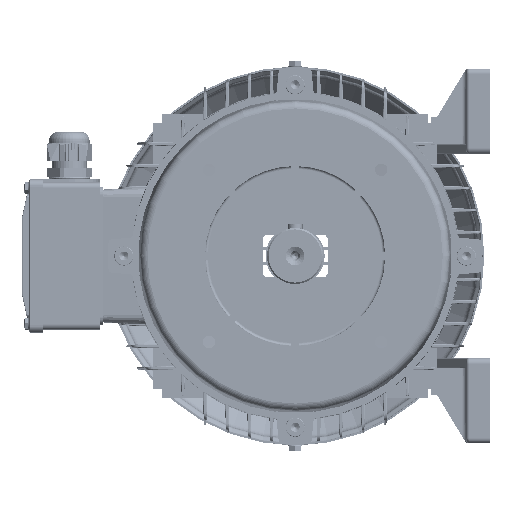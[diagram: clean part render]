
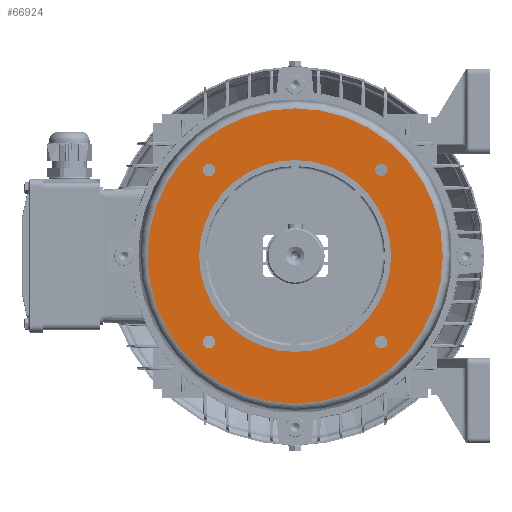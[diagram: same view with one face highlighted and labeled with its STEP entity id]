
A CAD part, left-side view. The second image highlights one B-rep face of the part: STEP entity #66924.
In plain terms, the highlighted planar face has unit normal (-1, 0, 0).
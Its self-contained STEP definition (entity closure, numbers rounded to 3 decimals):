
#2372 = CARTESIAN_POINT ( 'NONE',  ( -22., 0., 0. ) ) ;
#4667 = DIRECTION ( 'NONE',  ( 0., 0., -1. ) ) ;
#5043 = CARTESIAN_POINT ( 'NONE',  ( -22., -58.336, -62.586 ) ) ;
#5411 = CARTESIAN_POINT ( 'NONE',  ( -22., -58.336, 58.336 ) ) ;
#6856 = VERTEX_POINT ( 'NONE', #24336 ) ;
#6888 = EDGE_CURVE ( 'NONE', #49267, #6856, #115118, .T. ) ;
#7226 = CARTESIAN_POINT ( 'NONE',  ( -22., -58.336, 54.086 ) ) ;
#10871 = ORIENTED_EDGE ( 'NONE', *, *, #81173, .T. ) ;
#11828 = CARTESIAN_POINT ( 'NONE',  ( -22., 58.336, -58.336 ) ) ;
#14985 = DIRECTION ( 'NONE',  ( 0., 0., 1. ) ) ;
#15089 = CARTESIAN_POINT ( 'NONE',  ( -22., 58.336, 58.336 ) ) ;
#15662 = EDGE_LOOP ( 'NONE', ( #43127, #112220 ) ) ;
#16509 = EDGE_CURVE ( 'NONE', #70927, #138595, #152188, .T. ) ;
#17132 = CIRCLE ( 'NONE', #131615, 4.25 ) ;
#17256 = EDGE_CURVE ( 'NONE', #138595, #70927, #122545, .T. ) ;
#20910 = CARTESIAN_POINT ( 'NONE',  ( -22., -58.336, 58.336 ) ) ;
#21953 = DIRECTION ( 'NONE',  ( 0., 0., -1. ) ) ;
#22503 = FACE_BOUND ( 'NONE', #15662, .T. ) ;
#23696 = AXIS2_PLACEMENT_3D ( 'NONE', #5411, #67966, #93175 ) ;
#24336 = CARTESIAN_POINT ( 'NONE',  ( -22., 0., 65. ) ) ;
#24435 = AXIS2_PLACEMENT_3D ( 'NONE', #128639, #90740, #129198 ) ;
#24819 = CIRCLE ( 'NONE', #131632, 4.25 ) ;
#25473 = DIRECTION ( 'NONE',  ( 0., 0., -1. ) ) ;
#27788 = ORIENTED_EDGE ( 'NONE', *, *, #61826, .F. ) ;
#28314 = FACE_BOUND ( 'NONE', #103379, .T. ) ;
#28452 = DIRECTION ( 'NONE',  ( 0., 0., 1. ) ) ;
#29538 = CARTESIAN_POINT ( 'NONE',  ( -22., 0., 0. ) ) ;
#30212 = CIRCLE ( 'NONE', #103792, 4.25 ) ;
#30902 = AXIS2_PLACEMENT_3D ( 'NONE', #20910, #133991, #108681 ) ;
#33337 = DIRECTION ( 'NONE',  ( -1., 0., 0. ) ) ;
#35176 = ORIENTED_EDGE ( 'NONE', *, *, #157411, .T. ) ;
#42792 = EDGE_CURVE ( 'NONE', #50909, #109659, #71603, .T. ) ;
#43127 = ORIENTED_EDGE ( 'NONE', *, *, #47020, .T. ) ;
#43188 = CARTESIAN_POINT ( 'NONE',  ( -22., 0., 100. ) ) ;
#44141 = DIRECTION ( 'NONE',  ( 1., 0., 0. ) ) ;
#47020 = EDGE_CURVE ( 'NONE', #109659, #50909, #112030, .T. ) ;
#49267 = VERTEX_POINT ( 'NONE', #116695 ) ;
#49704 = EDGE_LOOP ( 'NONE', ( #70485, #35176 ) ) ;
#50432 = VERTEX_POINT ( 'NONE', #43188 ) ;
#50761 = ORIENTED_EDGE ( 'NONE', *, *, #54269, .T. ) ;
#50909 = VERTEX_POINT ( 'NONE', #73179 ) ;
#52975 = EDGE_LOOP ( 'NONE', ( #27788, #111517 ) ) ;
#54112 = AXIS2_PLACEMENT_3D ( 'NONE', #137062, #75029, #100285 ) ;
#54269 = EDGE_CURVE ( 'NONE', #109237, #101357, #30212, .T. ) ;
#55189 = CIRCLE ( 'NONE', #122947, 4.25 ) ;
#55932 = FACE_BOUND ( 'NONE', #137504, .T. ) ;
#59205 = CARTESIAN_POINT ( 'NONE',  ( -22., 0., 0. ) ) ;
#60140 = AXIS2_PLACEMENT_3D ( 'NONE', #119325, #44141, #131995 ) ;
#61799 = FACE_OUTER_BOUND ( 'NONE', #49704, .T. ) ;
#61826 = EDGE_CURVE ( 'NONE', #6856, #49267, #151402, .T. ) ;
#63423 = DIRECTION ( 'NONE',  ( 1., 0., 0. ) ) ;
#66924 = ADVANCED_FACE ( 'NONE', ( #28314, #126620, #22503, #55932, #61799, #138416 ), #101343, .F. ) ;
#67966 = DIRECTION ( 'NONE',  ( 1., 0., 0. ) ) ;
#68383 = CIRCLE ( 'NONE', #124363, 100. ) ;
#68619 = VERTEX_POINT ( 'NONE', #137870 ) ;
#70485 = ORIENTED_EDGE ( 'NONE', *, *, #120792, .T. ) ;
#70927 = VERTEX_POINT ( 'NONE', #84062 ) ;
#71546 = VERTEX_POINT ( 'NONE', #98581 ) ;
#71603 = CIRCLE ( 'NONE', #24435, 4.25 ) ;
#71631 = ORIENTED_EDGE ( 'NONE', *, *, #107095, .T. ) ;
#73179 = CARTESIAN_POINT ( 'NONE',  ( -22., -58.336, -54.086 ) ) ;
#74202 = ORIENTED_EDGE ( 'NONE', *, *, #84783, .T. ) ;
#75029 = DIRECTION ( 'NONE',  ( 1., 0., 0. ) ) ;
#76561 = DIRECTION ( 'NONE',  ( 0., 0., 1. ) ) ;
#79835 = DIRECTION ( 'NONE',  ( 1., 0., 0. ) ) ;
#80586 = DIRECTION ( 'NONE',  ( -1., 0., 0. ) ) ;
#81173 = EDGE_CURVE ( 'NONE', #108614, #71546, #55189, .T. ) ;
#84062 = CARTESIAN_POINT ( 'NONE',  ( -22., -58.336, 62.586 ) ) ;
#84783 = EDGE_CURVE ( 'NONE', #101357, #109237, #24819, .T. ) ;
#84950 = ORIENTED_EDGE ( 'NONE', *, *, #17256, .T. ) ;
#87626 = EDGE_LOOP ( 'NONE', ( #84950, #88808 ) ) ;
#88808 = ORIENTED_EDGE ( 'NONE', *, *, #16509, .T. ) ;
#90740 = DIRECTION ( 'NONE',  ( 1., 0., 0. ) ) ;
#91289 = DIRECTION ( 'NONE',  ( 0., 0., -1. ) ) ;
#93114 = AXIS2_PLACEMENT_3D ( 'NONE', #2372, #128029, #14985 ) ;
#93175 = DIRECTION ( 'NONE',  ( 0., 0., -1. ) ) ;
#98581 = CARTESIAN_POINT ( 'NONE',  ( -22., 58.336, 54.086 ) ) ;
#100285 = DIRECTION ( 'NONE',  ( 0., 0., -1. ) ) ;
#101343 = PLANE ( 'NONE',  #54112 ) ;
#101357 = VERTEX_POINT ( 'NONE', #147856 ) ;
#103379 = EDGE_LOOP ( 'NONE', ( #71631, #10871 ) ) ;
#103401 = DIRECTION ( 'NONE',  ( -1., 0., 0. ) ) ;
#103792 = AXIS2_PLACEMENT_3D ( 'NONE', #11828, #63423, #25473 ) ;
#107095 = EDGE_CURVE ( 'NONE', #71546, #108614, #17132, .T. ) ;
#108614 = VERTEX_POINT ( 'NONE', #121716 ) ;
#108636 = DIRECTION ( 'NONE',  ( 1., 0., 0. ) ) ;
#108681 = DIRECTION ( 'NONE',  ( 0., 0., -1. ) ) ;
#109237 = VERTEX_POINT ( 'NONE', #133623 ) ;
#109659 = VERTEX_POINT ( 'NONE', #5043 ) ;
#111517 = ORIENTED_EDGE ( 'NONE', *, *, #6888, .F. ) ;
#112030 = CIRCLE ( 'NONE', #60140, 4.25 ) ;
#112220 = ORIENTED_EDGE ( 'NONE', *, *, #42792, .T. ) ;
#115118 = CIRCLE ( 'NONE', #93114, 65. ) ;
#116548 = CARTESIAN_POINT ( 'NONE',  ( -22., 0., 0. ) ) ;
#116695 = CARTESIAN_POINT ( 'NONE',  ( -22., 0., -65. ) ) ;
#119325 = CARTESIAN_POINT ( 'NONE',  ( -22., -58.336, -58.336 ) ) ;
#120792 = EDGE_CURVE ( 'NONE', #50432, #68619, #129628, .T. ) ;
#121679 = DIRECTION ( 'NONE',  ( 0., 0., 1. ) ) ;
#121716 = CARTESIAN_POINT ( 'NONE',  ( -22., 58.336, 62.586 ) ) ;
#121863 = AXIS2_PLACEMENT_3D ( 'NONE', #116548, #103401, #76561 ) ;
#122545 = CIRCLE ( 'NONE', #23696, 4.25 ) ;
#122947 = AXIS2_PLACEMENT_3D ( 'NONE', #155616, #79835, #4667 ) ;
#124363 = AXIS2_PLACEMENT_3D ( 'NONE', #59205, #33337, #121679 ) ;
#126620 = FACE_BOUND ( 'NONE', #87626, .T. ) ;
#127599 = DIRECTION ( 'NONE',  ( 1., 0., 0. ) ) ;
#128029 = DIRECTION ( 'NONE',  ( -1., 0., 0. ) ) ;
#128639 = CARTESIAN_POINT ( 'NONE',  ( -22., -58.336, -58.336 ) ) ;
#129198 = DIRECTION ( 'NONE',  ( 0., 0., -1. ) ) ;
#129628 = CIRCLE ( 'NONE', #131058, 100. ) ;
#131058 = AXIS2_PLACEMENT_3D ( 'NONE', #29538, #80586, #28452 ) ;
#131615 = AXIS2_PLACEMENT_3D ( 'NONE', #15089, #127599, #91289 ) ;
#131632 = AXIS2_PLACEMENT_3D ( 'NONE', #133945, #108636, #21953 ) ;
#131995 = DIRECTION ( 'NONE',  ( 0., 0., -1. ) ) ;
#133623 = CARTESIAN_POINT ( 'NONE',  ( -22., 58.336, -54.086 ) ) ;
#133945 = CARTESIAN_POINT ( 'NONE',  ( -22., 58.336, -58.336 ) ) ;
#133991 = DIRECTION ( 'NONE',  ( 1., 0., 0. ) ) ;
#137062 = CARTESIAN_POINT ( 'NONE',  ( -22., 65., 0. ) ) ;
#137504 = EDGE_LOOP ( 'NONE', ( #74202, #50761 ) ) ;
#137870 = CARTESIAN_POINT ( 'NONE',  ( -22., 0., -100. ) ) ;
#138416 = FACE_BOUND ( 'NONE', #52975, .T. ) ;
#138595 = VERTEX_POINT ( 'NONE', #7226 ) ;
#147856 = CARTESIAN_POINT ( 'NONE',  ( -22., 58.336, -62.586 ) ) ;
#151402 = CIRCLE ( 'NONE', #121863, 65. ) ;
#152188 = CIRCLE ( 'NONE', #30902, 4.25 ) ;
#155616 = CARTESIAN_POINT ( 'NONE',  ( -22., 58.336, 58.336 ) ) ;
#157411 = EDGE_CURVE ( 'NONE', #68619, #50432, #68383, .T. ) ;
